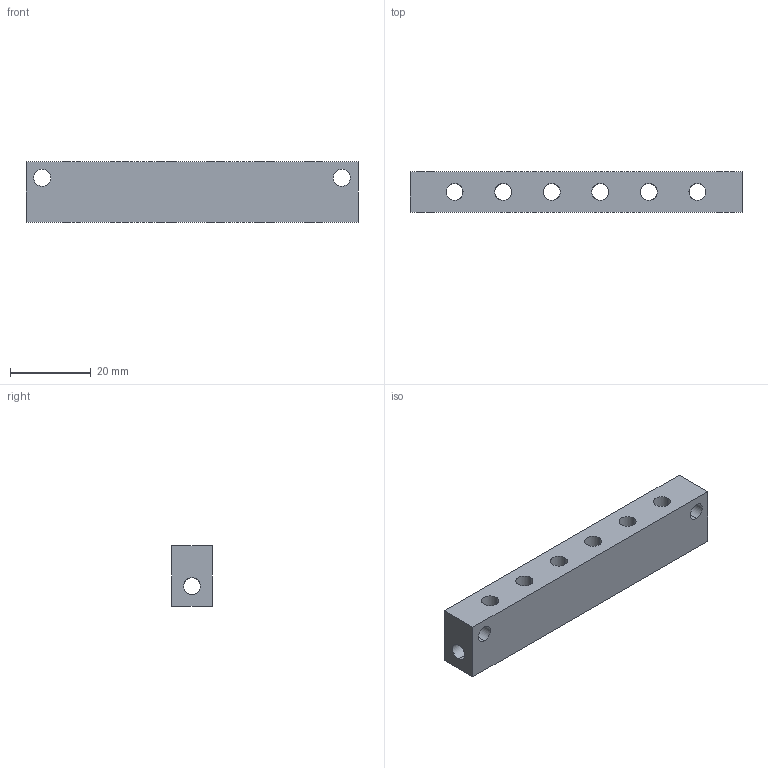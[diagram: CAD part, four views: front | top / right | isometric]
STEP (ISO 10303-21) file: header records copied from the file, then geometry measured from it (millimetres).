
FILE_DESCRIPTION (( 'STEP AP214' ), '1' );
FILE_NAME ('SMB-14M5.STEP', '2019-11-06T02:51:22', ( '微软用户' ), ( '微软中国' ), 'SwSTEP 2.0', 'SolidWorks 2016', '' );
FILE_SCHEMA (( 'AUTOMOTIVE_DESIGN' ));
Length unit declared in the file: millimetre
Products named in the file (1): SMB-14M5
Bounding box: 82 x 10 x 15 mm (x, y, z)
Volume: 9936.3 mm3; surface area: 6260.6 mm2
Topology: 1 solids, 1 shells, 48 faces, 138 edges, 80 vertices
Faces by surface type: cylinder 42, plane 6
Entity records: 2086 total; most frequent: CARTESIAN_POINT 411, ORIENTED_EDGE 276, DIRECTION 224, EDGE_CURVE 138, AXIS2_PLACEMENT_3D 85, VERTEX_POINT 80, EDGE_LOOP 66, LINE 54
